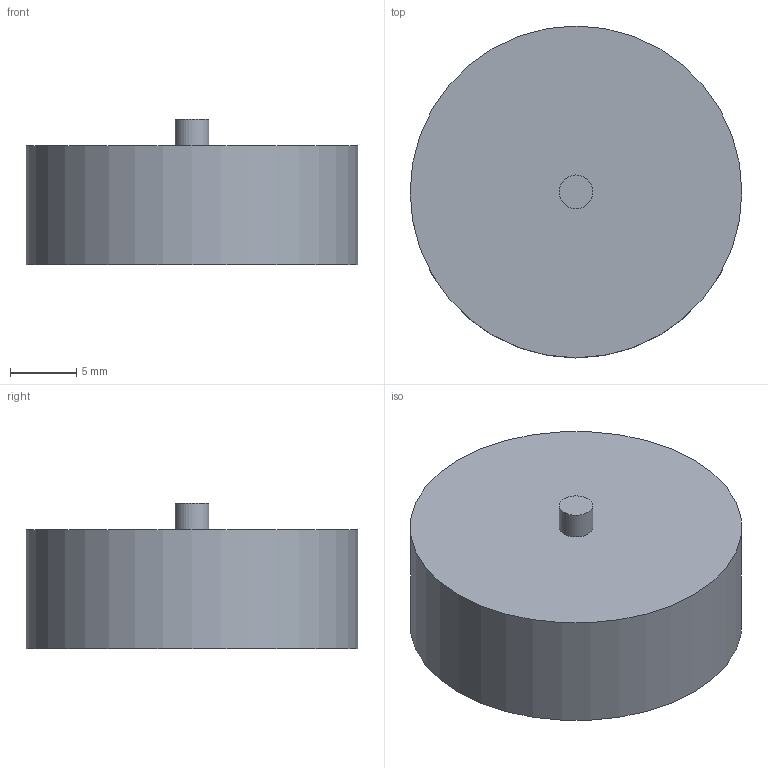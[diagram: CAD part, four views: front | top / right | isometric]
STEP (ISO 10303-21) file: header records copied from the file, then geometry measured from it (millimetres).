
FILE_DESCRIPTION(/* description */ ('Alibre Inc.'),/* implementation_level */ '2;1');
FILE_NAME(/* name */ 'export0',/* time_stamp */ '2013-08-02T08:41:44-06:00',/* author */ (''),/* organization */ (''),/* preprocessor_version */ 'ST-DEVELOPER v14',/* originating_system */ 'Alibre',/* authorisation */ '');
FILE_SCHEMA (('ALIBRE_SCHEMA','CONFIG_CONTROL_DESIGN'));
Length unit declared in the file: centimetre
Products named in the file (1): ID_1
Bounding box: 25 x 25 x 11 mm (x, y, z)
Volume: 4316.6 mm3; surface area: 1830.5 mm2
Topology: 1 solids, 1 shells, 13 faces, 18 edges, 12 vertices
Faces by surface type: plane 7, cylinder 6
Full cylindrical faces by diameter (mm): 2.459 x3, 2.54 x1, 16 x1, 25 x1
Entity records: 897 total; most frequent: CARTESIAN_POINT 88, DIRECTION 62, AXIS2_PLACEMENT_3D 33, INTEGERVALUEPAIR 33, PERSISTANTTOPOLOGYATTRIBUTE 29, REFERENCEDEPENDENTUV 27, CIRCLE 26, ORIENTED_EDGE 24
